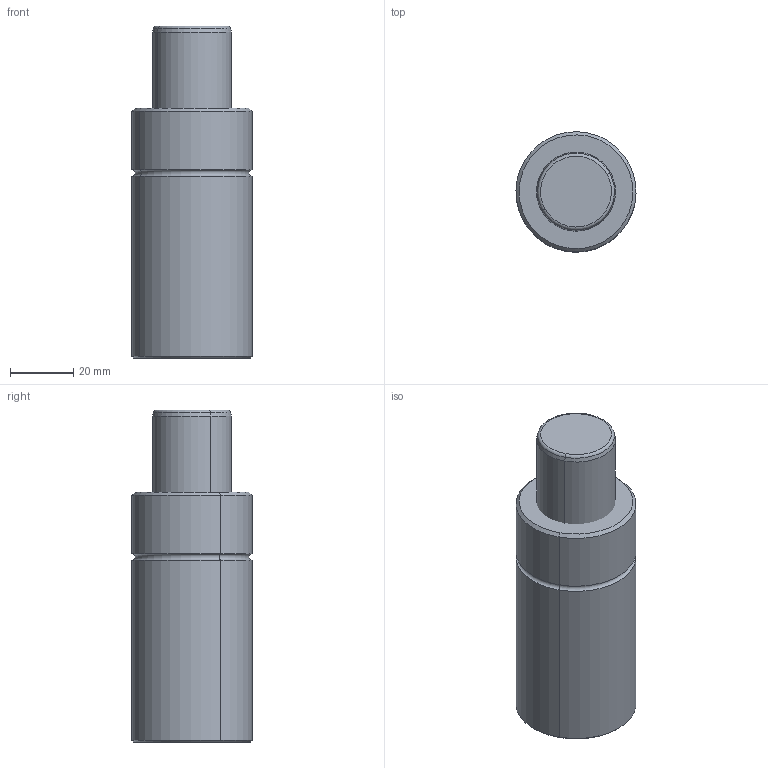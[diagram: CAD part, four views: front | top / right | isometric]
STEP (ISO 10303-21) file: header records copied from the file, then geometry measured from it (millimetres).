
FILE_DESCRIPTION(('CATIA V5 STEP Exchange'),'2;1');
FILE_NAME('W:\CATALOGO GENERAL 2018\FICHEROS CAD\003-TPH\TPH 1000\TPH1000x25.stp','2017-10-30T10:54:49+00:00',('none'),('none'),'CATIA Version 5 Release 17 (IN-10)','CATIA V5 STEP AP203','none');
FILE_SCHEMA(('CONFIG_CONTROL_DESIGN'));
Length unit declared in the file: millimetre
Products named in the file (1): TPH 1000x25
Assembly tree (2 placements, depth 2):
  TPH 1000x25
    #56
    #489
Bounding box: 37.99 x 37.99 x 105 mm (x, y, z)
Volume: 123606.1 mm3; surface area: 19187.9 mm2
Topology: 2 solids, 2 shells, 43 faces, 82 edges, 48 vertices
Faces by surface type: cylinder 16, torus 10, plane 9, cone 8
Entity records: 1016 total; most frequent: ORIENTED_EDGE 164, CARTESIAN_POINT 156, DIRECTION 134, AXIS2_PLACEMENT_3D 84, EDGE_CURVE 82, CIRCLE 58, EDGE_LOOP 48, VERTEX_POINT 48
